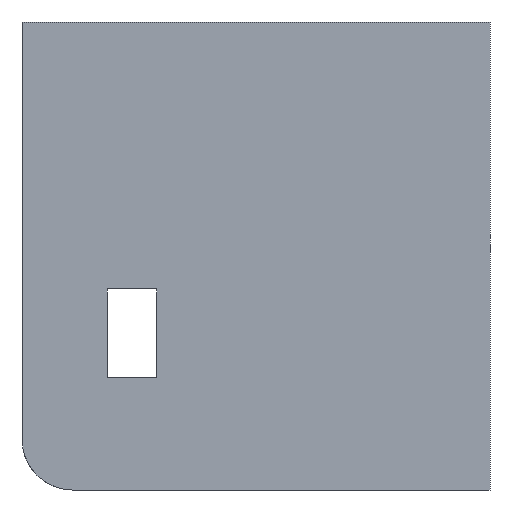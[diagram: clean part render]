
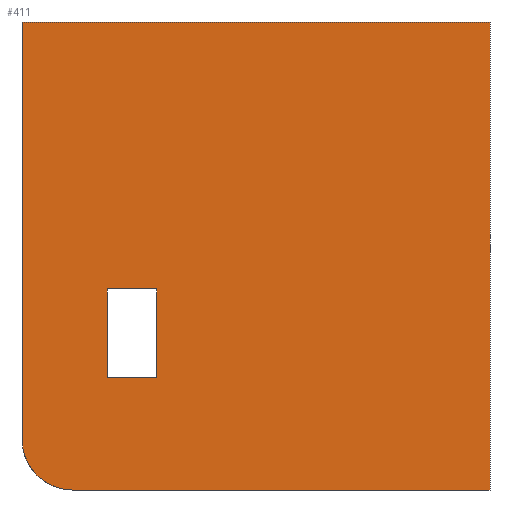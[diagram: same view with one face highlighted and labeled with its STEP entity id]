
A CAD part, front view. The second image highlights one B-rep face of the part: STEP entity #411.
In plain terms, the highlighted planar face has unit normal (0, -1, 0).
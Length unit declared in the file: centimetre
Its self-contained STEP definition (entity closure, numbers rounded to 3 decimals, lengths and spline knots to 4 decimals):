
#6 = DIRECTION ( 'NONE',  ( 0., -1., 0. ) ) ;
#9 = LINE ( 'NONE', #508, #92 ) ;
#10 = LINE ( 'NONE', #658, #50 ) ;
#16 = DIRECTION ( 'NONE',  ( 0., 0., -1. ) ) ;
#22 = ORIENTED_EDGE ( 'NONE', *, *, #311, .T. ) ;
#26 = ORIENTED_EDGE ( 'NONE', *, *, #463, .T. ) ;
#27 = LINE ( 'NONE', #366, #443 ) ;
#30 = ORIENTED_EDGE ( 'NONE', *, *, #83, .T. ) ;
#45 = VERTEX_POINT ( 'NONE', #66 ) ;
#50 = VECTOR ( 'NONE', #120, 100. ) ;
#52 = ORIENTED_EDGE ( 'NONE', *, *, #252, .F. ) ;
#55 = EDGE_CURVE ( 'NONE', #447, #403, #114, .T. ) ;
#57 = EDGE_LOOP ( 'NONE', ( #169, #216, #26, #22 ) ) ;
#66 = CARTESIAN_POINT ( 'NONE',  ( 287.4799, 0., 239.8554 ) ) ;
#69 = VERTEX_POINT ( 'NONE', #337 ) ;
#70 = CARTESIAN_POINT ( 'NONE',  ( 1000., 0., 1000. ) ) ;
#72 = DIRECTION ( 'NONE',  ( 1., 0., 0. ) ) ;
#83 = EDGE_CURVE ( 'NONE', #638, #320, #210, .T. ) ;
#87 = DIRECTION ( 'NONE',  ( 1., 0., 0. ) ) ;
#92 = VECTOR ( 'NONE', #655, 100. ) ;
#99 = EDGE_CURVE ( 'NONE', #45, #481, #9, .T. ) ;
#114 = LINE ( 'NONE', #70, #338 ) ;
#120 = DIRECTION ( 'NONE',  ( 0., 0., -1. ) ) ;
#121 = LINE ( 'NONE', #137, #184 ) ;
#137 = CARTESIAN_POINT ( 'NONE',  ( 0., 0., 0. ) ) ;
#146 = CARTESIAN_POINT ( 'NONE',  ( 0., 0., 1000. ) ) ;
#149 = FACE_OUTER_BOUND ( 'NONE', #297, .T. ) ;
#159 = VERTEX_POINT ( 'NONE', #491 ) ;
#169 = ORIENTED_EDGE ( 'NONE', *, *, #99, .T. ) ;
#177 = DIRECTION ( 'NONE',  ( 0., 0., 1. ) ) ;
#184 = VECTOR ( 'NONE', #87, 100. ) ;
#191 = EDGE_CURVE ( 'NONE', #320, #403, #121, .T. ) ;
#207 = CARTESIAN_POINT ( 'NONE',  ( 0., 0., 1000. ) ) ;
#210 = CIRCLE ( 'NONE', #559, 108.1798 ) ;
#215 = LINE ( 'NONE', #588, #650 ) ;
#216 = ORIENTED_EDGE ( 'NONE', *, *, #517, .T. ) ;
#244 = VERTEX_POINT ( 'NONE', #304 ) ;
#251 = CARTESIAN_POINT ( 'NONE',  ( 108.1798, 0., 0. ) ) ;
#252 = EDGE_CURVE ( 'NONE', #159, #447, #459, .T. ) ;
#278 = ORIENTED_EDGE ( 'NONE', *, *, #560, .T. ) ;
#285 = CARTESIAN_POINT ( 'NONE',  ( 108.1798, 0., 108.1798 ) ) ;
#297 = EDGE_LOOP ( 'NONE', ( #278, #30, #318, #486, #52 ) ) ;
#304 = CARTESIAN_POINT ( 'NONE',  ( 181.9828, 0., 429.5251 ) ) ;
#311 = EDGE_CURVE ( 'NONE', #69, #45, #27, .T. ) ;
#318 = ORIENTED_EDGE ( 'NONE', *, *, #191, .T. ) ;
#319 = DIRECTION ( 'NONE',  ( 1., 0., 0. ) ) ;
#320 = VERTEX_POINT ( 'NONE', #251 ) ;
#327 = CARTESIAN_POINT ( 'NONE',  ( 181.9828, 0., 239.8554 ) ) ;
#337 = CARTESIAN_POINT ( 'NONE',  ( 287.4799, 0., 429.5251 ) ) ;
#338 = VECTOR ( 'NONE', #16, 100. ) ;
#366 = CARTESIAN_POINT ( 'NONE',  ( 287.4799, 0., 239.8554 ) ) ;
#368 = DIRECTION ( 'NONE',  ( 0., 1., 0. ) ) ;
#403 = VERTEX_POINT ( 'NONE', #422 ) ;
#411 = ADVANCED_FACE ( 'NONE', ( #475, #149 ), #420, .F. ) ;
#420 = PLANE ( 'NONE',  #627 ) ;
#422 = CARTESIAN_POINT ( 'NONE',  ( 1000., 0., 0. ) ) ;
#440 = LINE ( 'NONE', #497, #678 ) ;
#443 = VECTOR ( 'NONE', #448, 100. ) ;
#447 = VERTEX_POINT ( 'NONE', #530 ) ;
#448 = DIRECTION ( 'NONE',  ( 0., 0., -1. ) ) ;
#459 = LINE ( 'NONE', #146, #691 ) ;
#463 = EDGE_CURVE ( 'NONE', #244, #69, #215, .T. ) ;
#475 = FACE_BOUND ( 'NONE', #57, .T. ) ;
#481 = VERTEX_POINT ( 'NONE', #327 ) ;
#486 = ORIENTED_EDGE ( 'NONE', *, *, #55, .F. ) ;
#489 = DIRECTION ( 'NONE',  ( 0., 0., 1. ) ) ;
#491 = CARTESIAN_POINT ( 'NONE',  ( 0., 0., 1000. ) ) ;
#493 = CARTESIAN_POINT ( 'NONE',  ( 0., 0., 108.1798 ) ) ;
#497 = CARTESIAN_POINT ( 'NONE',  ( 181.9828, 0., 239.8554 ) ) ;
#508 = CARTESIAN_POINT ( 'NONE',  ( 181.9828, 0., 239.8554 ) ) ;
#517 = EDGE_CURVE ( 'NONE', #481, #244, #440, .T. ) ;
#530 = CARTESIAN_POINT ( 'NONE',  ( 1000., 0., 1000. ) ) ;
#559 = AXIS2_PLACEMENT_3D ( 'NONE', #285, #6, #177 ) ;
#560 = EDGE_CURVE ( 'NONE', #159, #638, #10, .T. ) ;
#588 = CARTESIAN_POINT ( 'NONE',  ( 181.9828, 0., 429.5251 ) ) ;
#627 = AXIS2_PLACEMENT_3D ( 'NONE', #207, #368, #694 ) ;
#638 = VERTEX_POINT ( 'NONE', #493 ) ;
#650 = VECTOR ( 'NONE', #319, 100. ) ;
#655 = DIRECTION ( 'NONE',  ( -1., 0., 0. ) ) ;
#658 = CARTESIAN_POINT ( 'NONE',  ( 0., 0., 1000. ) ) ;
#678 = VECTOR ( 'NONE', #489, 100. ) ;
#691 = VECTOR ( 'NONE', #72, 100. ) ;
#694 = DIRECTION ( 'NONE',  ( 0., 0., 1. ) ) ;
